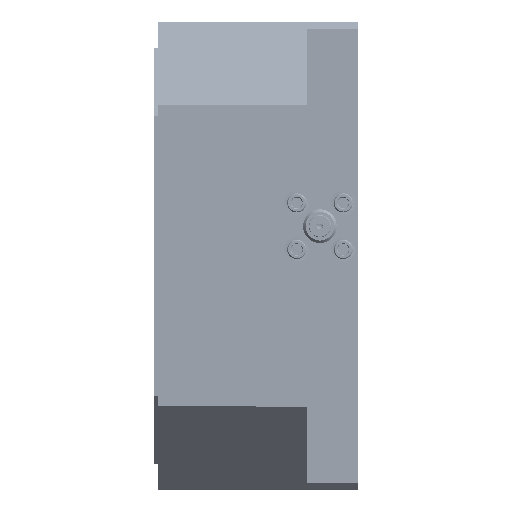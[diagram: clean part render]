
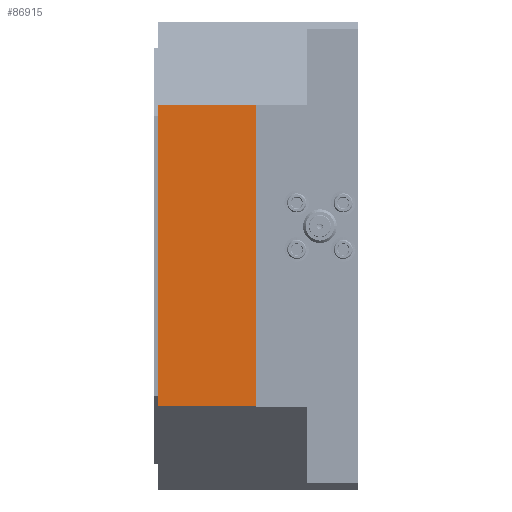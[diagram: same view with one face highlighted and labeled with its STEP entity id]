
A CAD part, left-side view. The second image highlights one B-rep face of the part: STEP entity #86915.
In plain terms, the highlighted planar face has unit normal (-1, 0, 0).
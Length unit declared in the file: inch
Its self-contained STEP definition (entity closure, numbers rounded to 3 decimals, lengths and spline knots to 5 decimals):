
#966 = LINE ( 'NONE', #124805, #99323 ) ;
#989 = CARTESIAN_POINT ( 'NONE',  ( -2.91146, -0.715, -0.63093 ) ) ;
#2818 = VECTOR ( 'NONE', #52414, 39.37008 ) ;
#5645 = EDGE_CURVE ( 'NONE', #18336, #55752, #966, .T. ) ;
#6773 = EDGE_CURVE ( 'NONE', #41994, #71904, #114645, .T. ) ;
#13532 = LINE ( 'NONE', #63312, #2818 ) ;
#18336 = VERTEX_POINT ( 'NONE', #132504 ) ;
#29846 = EDGE_CURVE ( 'NONE', #18336, #41994, #58589, .T. ) ;
#30615 = AXIS2_PLACEMENT_3D ( 'NONE', #116150, #63773, #105269 ) ;
#33088 = FACE_OUTER_BOUND ( 'NONE', #132304, .T. ) ;
#41994 = VERTEX_POINT ( 'NONE', #122542 ) ;
#52414 = DIRECTION ( 'NONE',  ( 0., 0., -1. ) ) ;
#55752 = VERTEX_POINT ( 'NONE', #66868 ) ;
#58589 = LINE ( 'NONE', #89888, #81986 ) ;
#59759 = ORIENTED_EDGE ( 'NONE', *, *, #29846, .F. ) ;
#59795 = ORIENTED_EDGE ( 'NONE', *, *, #78474, .T. ) ;
#62248 = DIRECTION ( 'NONE',  ( 0., 1., 0. ) ) ;
#63312 = CARTESIAN_POINT ( 'NONE',  ( -2.91146, 0., 1.56907 ) ) ;
#63773 = DIRECTION ( 'NONE',  ( 1., 0., 0. ) ) ;
#64434 = PLANE ( 'NONE',  #30615 ) ;
#66868 = CARTESIAN_POINT ( 'NONE',  ( -2.91146, 0., 1.56907 ) ) ;
#71904 = VERTEX_POINT ( 'NONE', #132290 ) ;
#74906 = ORIENTED_EDGE ( 'NONE', *, *, #5645, .T. ) ;
#78474 = EDGE_CURVE ( 'NONE', #55752, #71904, #13532, .T. ) ;
#81986 = VECTOR ( 'NONE', #131401, 39.37008 ) ;
#84210 = ORIENTED_EDGE ( 'NONE', *, *, #6773, .F. ) ;
#86915 = ADVANCED_FACE ( 'NONE', ( #33088 ), #64434, .F. ) ;
#89888 = CARTESIAN_POINT ( 'NONE',  ( -2.91146, -0.715, 1.56907 ) ) ;
#91012 = VECTOR ( 'NONE', #113317, 39.37008 ) ;
#99323 = VECTOR ( 'NONE', #62248, 39.37008 ) ;
#105269 = DIRECTION ( 'NONE',  ( 0., 0., -1. ) ) ;
#113317 = DIRECTION ( 'NONE',  ( 0., 1., 0. ) ) ;
#114645 = LINE ( 'NONE', #989, #91012 ) ;
#116150 = CARTESIAN_POINT ( 'NONE',  ( -2.91146, -0.715, 1.56907 ) ) ;
#122542 = CARTESIAN_POINT ( 'NONE',  ( -2.91146, -0.715, -0.63093 ) ) ;
#124805 = CARTESIAN_POINT ( 'NONE',  ( -2.91146, -0.715, 1.56907 ) ) ;
#131401 = DIRECTION ( 'NONE',  ( 0., 0., -1. ) ) ;
#132290 = CARTESIAN_POINT ( 'NONE',  ( -2.91146, 0., -0.63093 ) ) ;
#132304 = EDGE_LOOP ( 'NONE', ( #59795, #84210, #59759, #74906 ) ) ;
#132504 = CARTESIAN_POINT ( 'NONE',  ( -2.91146, -0.715, 1.56907 ) ) ;
